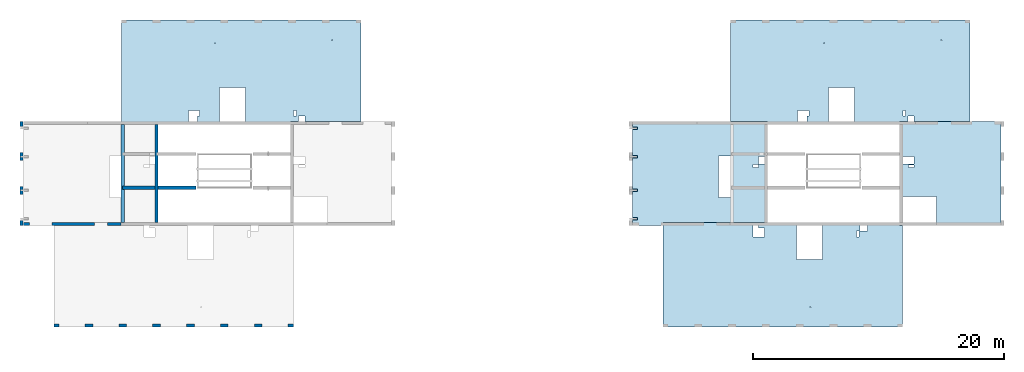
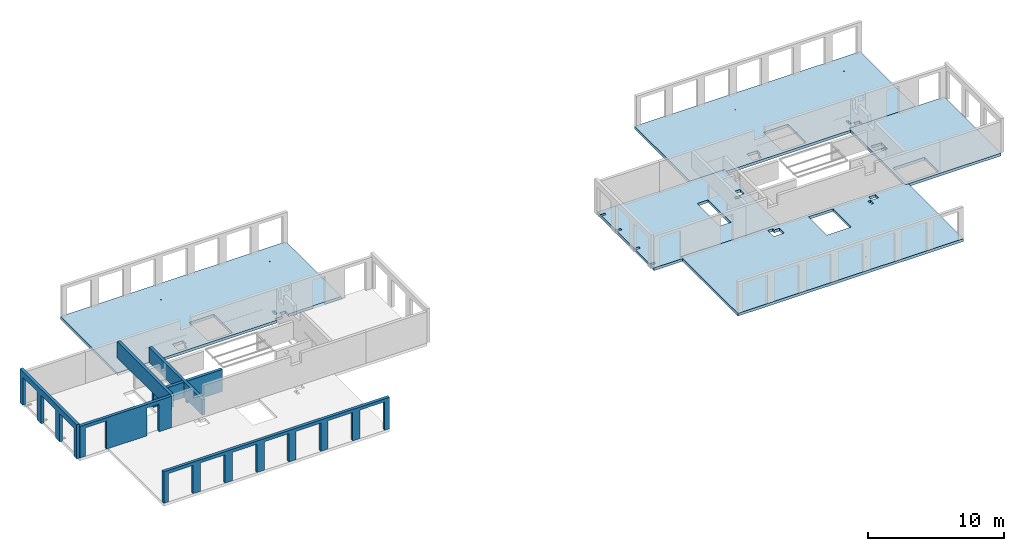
# One storey, part 3 of 6: 7 walls, 5 slabs, 50 openings.
"""IFC2X3 building model written with IfcOpenShell, lengths in millimetres."""

from ifc_helpers import new_model, entity, si_unit, converted_unit, derived_unit, direction, frame, frame_2d, origin, origin_2d_with_axis, place, context, subcontext, project, spatial, polyline, rectangle, circle, outline, extrude, clip, bounded_halfspace, material, layer, layer_set, layer_usage, type_object, element, save


model = new_model("IFC2X3")

# Units and contexts
model_context = context("Model", 3, precision=0.01, world=origin(), true_north=direction((6.12303176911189e-17, 1.0)))
body_context = subcontext(model_context, "Body", "Model", "MODEL_VIEW")
ifc_project = project(units=[si_unit("LENGTHUNIT", "METRE", prefix="MILLI"), si_unit("AREAUNIT", "SQUARE_METRE"), si_unit("VOLUMEUNIT", "CUBIC_METRE"), converted_unit("PLANEANGLEUNIT", "DEGREE", entity("IfcRatioMeasure", 0.0174532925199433), si_unit("PLANEANGLEUNIT", "RADIAN"), dimensions=[0, 0, 0, 0, 0, 0, 0]), si_unit("MASSUNIT", "GRAM", prefix="KILO"), derived_unit("MASSDENSITYUNIT", [(si_unit("MASSUNIT", "GRAM", prefix="KILO"), 1), (si_unit("LENGTHUNIT", "METRE"), -3)]), si_unit("TIMEUNIT", "SECOND"), si_unit("FREQUENCYUNIT", "HERTZ"), si_unit("THERMODYNAMICTEMPERATUREUNIT", "DEGREE_CELSIUS"), derived_unit("THERMALTRANSMITTANCEUNIT", [(si_unit("MASSUNIT", "GRAM", prefix="KILO"), 1), (si_unit("THERMODYNAMICTEMPERATUREUNIT", "KELVIN"), -1), (si_unit("TIMEUNIT", "SECOND"), -3)]), derived_unit("VOLUMETRICFLOWRATEUNIT", [(si_unit("LENGTHUNIT", "METRE"), 3), (si_unit("TIMEUNIT", "SECOND"), -1)]), si_unit("ELECTRICCURRENTUNIT", "AMPERE"), si_unit("ELECTRICVOLTAGEUNIT", "VOLT"), si_unit("POWERUNIT", "WATT"), si_unit("FORCEUNIT", "NEWTON", prefix="KILO"), si_unit("ILLUMINANCEUNIT", "LUX"), si_unit("LUMINOUSFLUXUNIT", "LUMEN"), si_unit("LUMINOUSINTENSITYUNIT", "CANDELA"), derived_unit("USERDEFINED", [(si_unit("MASSUNIT", "GRAM", prefix="KILO"), -1), (si_unit("LENGTHUNIT", "METRE"), -2), (si_unit("TIMEUNIT", "SECOND"), 3), (si_unit("LUMINOUSFLUXUNIT", "LUMEN"), 1)]), derived_unit("LINEARVELOCITYUNIT", [(si_unit("LENGTHUNIT", "METRE"), 1), (si_unit("TIMEUNIT", "SECOND"), -1)]), si_unit("PRESSUREUNIT", "PASCAL"), derived_unit("USERDEFINED", [(si_unit("LENGTHUNIT", "METRE"), -2), (si_unit("MASSUNIT", "GRAM", prefix="KILO"), 1), (si_unit("TIMEUNIT", "SECOND"), -2)])], contexts=[model_context])

# Site, building, storey
site_placement = place(None, origin())
site = spatial("IfcSite", under=ifc_project, at=site_placement, Name="Default", CompositionType="ELEMENT")
building_placement = place(site_placement, origin())
building = spatial("IfcBuilding", under=site, at=building_placement, Name="niet gebruiken", CompositionType="ELEMENT")
storey_placement = place(building_placement, frame((0.0, 0.0, 66160.0)))
storey = spatial("IfcBuildingStorey", under=building, at=storey_placement, Name="22 tweeëntwintigste verdieping", CompositionType="ELEMENT", Elevation=66160.0)

# Slab, openings
ifc_material_1 = material(Name="NLRS_f2_beton ihwg")
ifc_layer_1 = layer(ifc_material_1, 250.0)
ifc_layer_set_1 = layer_set([ifc_layer_1], Name="Floor:NLRS_23.21_FL_beton ihwg d=250_gen")
ifc_layer_usage_1 = layer_usage(ifc_layer_set_1, "AXIS3", "POSITIVE", 0.0)
slab_1_placement = place(storey_placement, frame((83600.0, 44906.0, -340.0)))
slab_1 = element("IfcSlab", 1, at=slab_1_placement, inside=storey, material=ifc_layer_usage_1, Name="Floor:NLRS_23.21_FL_beton ihwg d=250_gen", ObjectType="Floor:NLRS_23.21_FL_beton ihwg d=250_gen", PredefinedType="FLOOR", context=body_context, shape_type="SweptSolid", body=[
    extrude(outline(polyline([(-9550.0, 4175.0), (-9550.0, -3925.0), (-3925.0, -3925.0), (-3925.0, -4175.0), (9550.0, -4175.0), (9550.0, 4175.0), (-9550.0, 4175.0)])), frame((9550.0, 4175.0, 250.0), z_axis=(0.0, 0.0, -1.0), x_axis=(-1.0, 0.0, 0.0)), (0.0, 0.0, 1.0), 250.000000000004),
])
opening_1_placement = place(storey_placement, frame((83600.0, 44906.0, -340.0)))
element("IfcOpeningElement", 2, at=opening_1_placement, cuts=slab_1, ObjectType="Opening", context=body_context, shape_type="SweptSolid", body=[
    extrude(circle(Radius=37.5, at=frame_2d((-7250.0, 2575.0), x_axis=(1.0, 0.0))), frame((9550.0, 4175.0, 250.0), z_axis=(0.0, 0.0, -1.0), x_axis=(-1.0, 0.0, 0.0)), (0.0, 0.0, 1.0), 250.000000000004),
])
opening_2_placement = place(storey_placement, frame((83600.0, 44906.0, -340.0)))
element("IfcOpeningElement", 3, at=opening_2_placement, cuts=slab_1, ObjectType="Opening", context=body_context, shape_type="SweptSolid", body=[
    extrude(circle(Radius=37.5, at=frame_2d((2100.0, 2325.0), x_axis=(1.0, 0.0))), frame((9550.0, 4175.0, 250.0), z_axis=(0.0, 0.0, -1.0), x_axis=(-1.0, 0.0, 0.0)), (0.0, 0.0, 1.0), 250.000000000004),
])
opening_3_placement = place(slab_1_placement, origin())
element("IfcOpeningElement", 4, at=opening_3_placement, cuts=slab_1, ObjectType="Opening", context=body_context, shape_type="SweptSolid", body=[
    extrude(rectangle(XDim=450.000000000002, YDim=500.000000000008, at=origin_2d_with_axis()), frame((14375.0, 475.0, 0.0), z_axis=(0.0, 0.0, 1.0), x_axis=(0.0, 1.0, 0.0)), (0.0, 0.0, 1.0), 250.000000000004),
])
opening_4_placement = place(slab_1_placement, origin())
element("IfcOpeningElement", 5, at=opening_4_placement, cuts=slab_1, ObjectType="Opening", context=body_context, shape_type="SweptSolid", body=[
    extrude(rectangle(XDim=900.000000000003, YDim=730.000000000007, at=origin_2d_with_axis()), frame((5700.0, 700.0, 0.0), z_axis=(0.0, 0.0, 1.0), x_axis=(0.0, 1.0, 0.0)), (0.0, 0.0, 1.0), 250.000000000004),
])
opening_5_placement = place(slab_1_placement, origin())
element("IfcOpeningElement", 6, at=opening_5_placement, cuts=slab_1, ObjectType="Opening", context=body_context, shape_type="SweptSolid", body=[
    extrude(rectangle(XDim=169.999999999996, YDim=450.000000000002, at=origin_2d_with_axis()), frame((6150.0, 925.0, 0.0), z_axis=(0.0, 0.0, 1.0), x_axis=(-1.0, 0.0, 0.0)), (0.0, 0.0, 1.0), 250.000000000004),
])
opening_6_placement = place(slab_1_placement, origin())
element("IfcOpeningElement", 7, at=opening_6_placement, cuts=slab_1, ObjectType="Opening", context=body_context, shape_type="SweptSolid", body=[
    extrude(rectangle(XDim=900.000000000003, YDim=600.000000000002, at=origin_2d_with_axis()), frame((14175.0, -2820.0, 0.0), z_axis=(0.0, 0.0, 1.0), x_axis=(-1.0, 0.0, 0.0)), (0.0, 0.0, 1.0), 250.000000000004),
])
opening_7_placement = place(slab_1_placement, origin())
element("IfcOpeningElement", 8, at=opening_7_placement, cuts=slab_1, ObjectType="Opening", context=body_context, shape_type="SweptSolid", body=[
    extrude(rectangle(XDim=220.000000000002, YDim=450.000000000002, at=origin_2d_with_axis()), frame((13835.0, 925.0, 0.0), z_axis=(0.0, 0.0, 1.0), x_axis=(-1.0, 0.0, 0.0)), (0.0, 0.0, 1.0), 250.000000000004),
])
opening_8_placement = place(slab_1_placement, frame((8835.0, 1600.0, 250.0)))
element("IfcOpeningElement", 9, at=opening_8_placement, cuts=slab_1, Name="Floor:NLRS_23.21_FL_beton ihwg d=250_gen:2", ObjectType="Opening", context=body_context, shape_type="SweptSolid", body=[
    extrude(rectangle(XDim=2700.0, YDim=2069.99999999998, at=origin_2d_with_axis()), frame((0.0, 0.0, 0.0), z_axis=(0.0, 0.0, -1.0), x_axis=(0.0, -1.0, 0.0)), (0.0, 0.0, 1.0), 250.000000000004),
])

ifc_layer_usage_2 = layer_usage(ifc_layer_set_1, "AXIS3", "POSITIVE", 0.0)
slab_2_placement = place(storey_placement, frame((78200.0, 28756.0, -340.0)))
slab_2 = element("IfcSlab", 10, at=slab_2_placement, inside=storey, material=ifc_layer_usage_2, Name="Floor:NLRS_23.21_FL_beton ihwg d=250_gen", ObjectType="Floor:NLRS_23.21_FL_beton ihwg d=250_gen", PredefinedType="FLOOR", context=body_context, shape_type="SweptSolid", body=[
    extrude(rectangle(XDim=8350.00000000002, YDim=19099.9999999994, at=frame_2d((0.0, 0.0), x_axis=(0.0, 1.0))), frame((9550.0, 4175.0, 250.0), z_axis=(0.0, 0.0, -1.0), x_axis=(-1.0, 0.0, 0.0)), (0.0, 0.0, 1.0), 250.000000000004),
])
opening_9_placement = place(storey_placement, frame((78200.0, 28756.0, -340.0)))
element("IfcOpeningElement", 11, at=opening_9_placement, cuts=slab_2, ObjectType="Opening", context=body_context, shape_type="SweptSolid", body=[
    extrude(circle(Radius=37.5, at=frame_2d((-2200.0, -2575.0), x_axis=(1.0, 0.0))), frame((9550.0, 4175.0, 250.0), z_axis=(0.0, 0.0, -1.0), x_axis=(-1.0, 0.0, 0.0)), (0.0, 0.0, 1.0), 250.000000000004),
])
opening_10_placement = place(slab_2_placement, origin())
element("IfcOpeningElement", 12, at=opening_10_placement, cuts=slab_2, ObjectType="Opening", context=body_context, shape_type="SweptSolid", body=[
    extrude(rectangle(XDim=900.000000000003, YDim=700.000000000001, at=origin_2d_with_axis()), frame((7625.0, 7550.0, 0.0), z_axis=(0.0, 0.0, 1.0), x_axis=(-1.0, 0.0, 0.0)), (0.0, 0.0, 1.0), 250.000000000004),
])
opening_11_placement = place(slab_2_placement, origin())
element("IfcOpeningElement", 13, at=opening_11_placement, cuts=slab_2, ObjectType="Opening", context=body_context, shape_type="SweptSolid", body=[
    extrude(rectangle(XDim=200.000000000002, YDim=450.000000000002, at=origin_2d_with_axis()), frame((7400.0, 8000.0, 0.0), z_axis=(0.0, 0.0, 1.0), x_axis=(0.0, -1.0, 0.0)), (0.0, 0.0, 1.0), 250.000000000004),
])
opening_12_placement = place(slab_2_placement, origin())
element("IfcOpeningElement", 14, at=opening_12_placement, cuts=slab_2, ObjectType="Opening", context=body_context, shape_type="SweptSolid", body=[
    extrude(rectangle(XDim=400.000000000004, YDim=199.999999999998, at=origin_2d_with_axis()), frame((-2230.0, 15870.0, 220.0)), (0.0, 0.0, 1.0), 30.0000000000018),
])
opening_13_placement = place(slab_2_placement, origin())
element("IfcOpeningElement", 15, at=opening_13_placement, cuts=slab_2, ObjectType="Opening", context=body_context, shape_type="SweptSolid", body=[
    extrude(rectangle(XDim=199.999999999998, YDim=400.000000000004, at=origin_2d_with_axis()), frame((-2230.0, 13600.0, 220.0), z_axis=(0.0, 0.0, 1.0), x_axis=(0.0, -1.0, 0.0)), (0.0, 0.0, 1.0), 30.0000000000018),
])
opening_14_placement = place(slab_2_placement, origin())
element("IfcOpeningElement", 16, at=opening_14_placement, cuts=slab_2, ObjectType="Opening", context=body_context, shape_type="SweptSolid", body=[
    extrude(rectangle(XDim=199.999999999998, YDim=400.000000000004, at=origin_2d_with_axis()), frame((-2230.0, 10900.0, 220.0), z_axis=(0.0, 0.0, 1.0), x_axis=(0.0, -1.0, 0.0)), (0.0, 0.0, 1.0), 30.0000000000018),
])
opening_15_placement = place(slab_2_placement, origin())
element("IfcOpeningElement", 17, at=opening_15_placement, cuts=slab_2, ObjectType="Opening", context=body_context, shape_type="SweptSolid", body=[
    extrude(rectangle(XDim=200.000000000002, YDim=400.000000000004, at=origin_2d_with_axis()), frame((-2230.0, 8630.0, 220.0), z_axis=(0.0, 0.0, 1.0), x_axis=(0.0, -1.0, 0.0)), (0.0, 0.0, 1.0), 30.0000000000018),
])
opening_16_placement = place(slab_2_placement, origin())
element("IfcOpeningElement", 18, at=opening_16_placement, cuts=slab_2, ObjectType="Opening", context=body_context, shape_type="SweptSolid", body=[
    extrude(rectangle(XDim=450.000000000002, YDim=600.000000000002, at=origin_2d_with_axis()), frame((16030.0, 7875.0, 0.0), z_axis=(0.0, 0.0, 1.0), x_axis=(0.0, 1.0, 0.0)), (0.0, 0.0, 1.0), 250.000000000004),
])
opening_17_placement = place(slab_2_placement, origin())
element("IfcOpeningElement", 19, at=opening_17_placement, cuts=slab_2, ObjectType="Opening", context=body_context, shape_type="SweptSolid", body=[
    extrude(rectangle(XDim=220.000000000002, YDim=450.000000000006, at=origin_2d_with_axis()), frame((15540.0, 7425.0, 0.0)), (0.0, 0.0, 1.0), 250.000000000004),
])
opening_18_placement = place(slab_2_placement, frame((11690.0, 6750.0, 250.0)))
element("IfcOpeningElement", 20, at=opening_18_placement, cuts=slab_2, Name="Floor:NLRS_23.21_FL_beton ihwg d=250_gen:2", ObjectType="Opening", context=body_context, shape_type="SweptSolid", body=[
    extrude(rectangle(XDim=2070.00000000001, YDim=2700.0, at=origin_2d_with_axis()), frame((0.0, 0.0, 0.0), z_axis=(0.0, 0.0, -1.0), x_axis=(-1.0, 0.0, 0.0)), (0.0, 0.0, 1.0), 250.000000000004),
])

ifc_layer_usage_3 = layer_usage(ifc_layer_set_1, "AXIS3", "POSITIVE", 0.0)
slab_3_placement = place(storey_placement, frame((35000.0, 44906.0, -340.0)))
slab_3 = element("IfcSlab", 21, at=slab_3_placement, inside=storey, material=ifc_layer_usage_3, Name="Floor:NLRS_23.21_FL_beton ihwg d=250_gen", ObjectType="Floor:NLRS_23.21_FL_beton ihwg d=250_gen", PredefinedType="FLOOR", context=body_context, shape_type="SweptSolid", body=[
    extrude(outline(polyline([(-9550.0, 4175.0), (-9550.0, -3925.0), (-3925.0, -3925.0), (-3925.0, -4175.0), (9550.0, -4175.0), (9550.0, 4175.0), (-9550.0, 4175.0)])), frame((9550.0, 4175.0, 250.0), z_axis=(0.0, 0.0, -1.0), x_axis=(-1.0, 0.0, 0.0)), (0.0, 0.0, 1.0), 250.000000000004),
])
opening_19_placement = place(storey_placement, frame((35000.0, 44906.0, -340.0)))
element("IfcOpeningElement", 22, at=opening_19_placement, cuts=slab_3, ObjectType="Opening", context=body_context, shape_type="SweptSolid", body=[
    extrude(circle(Radius=37.5, at=frame_2d((-7250.0, 2575.0), x_axis=(1.0, 0.0))), frame((9550.0, 4175.0, 250.0), z_axis=(0.0, 0.0, -1.0), x_axis=(-1.0, 0.0, 0.0)), (0.0, 0.0, 1.0), 250.000000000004),
])
opening_20_placement = place(storey_placement, frame((35000.0, 44906.0, -340.0)))
element("IfcOpeningElement", 23, at=opening_20_placement, cuts=slab_3, ObjectType="Opening", context=body_context, shape_type="SweptSolid", body=[
    extrude(circle(Radius=37.5, at=frame_2d((2100.0, 2325.0), x_axis=(1.0, 0.0))), frame((9550.0, 4175.0, 250.0), z_axis=(0.0, 0.0, -1.0), x_axis=(-1.0, 0.0, 0.0)), (0.0, 0.0, 1.0), 250.000000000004),
])
opening_21_placement = place(slab_3_placement, origin())
element("IfcOpeningElement", 24, at=opening_21_placement, cuts=slab_3, ObjectType="Opening", context=body_context, shape_type="SweptSolid", body=[
    extrude(rectangle(XDim=450.000000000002, YDim=499.999999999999, at=origin_2d_with_axis()), frame((14375.0, 475.0, 0.0), z_axis=(0.0, 0.0, 1.0), x_axis=(0.0, 1.0, 0.0)), (0.0, 0.0, 1.0), 250.000000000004),
])
opening_22_placement = place(slab_3_placement, origin())
element("IfcOpeningElement", 25, at=opening_22_placement, cuts=slab_3, ObjectType="Opening", context=body_context, shape_type="SweptSolid", body=[
    extrude(rectangle(XDim=900.000000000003, YDim=729.999999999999, at=origin_2d_with_axis()), frame((5700.0, 700.0, 0.0), z_axis=(0.0, 0.0, 1.0), x_axis=(0.0, 1.0, 0.0)), (0.0, 0.0, 1.0), 250.000000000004),
])
opening_23_placement = place(slab_3_placement, origin())
element("IfcOpeningElement", 26, at=opening_23_placement, cuts=slab_3, ObjectType="Opening", context=body_context, shape_type="SweptSolid", body=[
    extrude(rectangle(XDim=170.000000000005, YDim=450.000000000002, at=origin_2d_with_axis()), frame((6150.0, 925.0, 0.0), z_axis=(0.0, 0.0, 1.0), x_axis=(-1.0, 0.0, 0.0)), (0.0, 0.0, 1.0), 250.000000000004),
])
opening_24_placement = place(slab_3_placement, origin())
element("IfcOpeningElement", 27, at=opening_24_placement, cuts=slab_3, ObjectType="Opening", context=body_context, shape_type="SweptSolid", body=[
    extrude(rectangle(XDim=900.000000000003, YDim=600.000000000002, at=origin_2d_with_axis()), frame((14175.0, -2820.0, 0.0), z_axis=(0.0, 0.0, 1.0), x_axis=(-1.0, 0.0, 0.0)), (0.0, 0.0, 1.0), 250.000000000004),
])
opening_25_placement = place(slab_3_placement, origin())
element("IfcOpeningElement", 28, at=opening_25_placement, cuts=slab_3, ObjectType="Opening", context=body_context, shape_type="SweptSolid", body=[
    extrude(rectangle(XDim=220.000000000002, YDim=450.000000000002, at=origin_2d_with_axis()), frame((13835.0, 925.0, 0.0), z_axis=(0.0, 0.0, 1.0), x_axis=(-1.0, 0.0, 0.0)), (0.0, 0.0, 1.0), 250.000000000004),
])
opening_26_placement = place(slab_3_placement, frame((8835.0, 1600.0, 250.0)))
element("IfcOpeningElement", 29, at=opening_26_placement, cuts=slab_3, Name="Floor:NLRS_23.21_FL_beton ihwg d=250_gen:2", ObjectType="Opening", context=body_context, shape_type="SweptSolid", body=[
    extrude(rectangle(XDim=2700.0, YDim=2069.99999999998, at=origin_2d_with_axis()), frame((0.0, 0.0, 0.0), z_axis=(0.0, 0.0, -1.0), x_axis=(0.0, -1.0, 0.0)), (0.0, 0.0, 1.0), 250.000000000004),
])

ifc_layer_usage_4 = layer_usage(ifc_layer_set_1, "AXIS3", "POSITIVE", 0.0)
slab_4_placement = place(storey_placement, frame((75770.0, 36856.0, -340.0)))
slab_4 = element("IfcSlab", 30, at=slab_4_placement, inside=storey, material=ifc_layer_usage_4, Name="Floor:NLRS_23.21_FL_beton ihwg d=250_gen", ObjectType="Floor:NLRS_23.21_FL_beton ihwg d=250_gen", PredefinedType="FLOOR", context=body_context, shape_type="SweptSolid", body=[
    extrude(outline(polyline([(5377.50000000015, -4150.0), (5377.50000000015, 4150.0), (-5377.50000000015, 4150.0), (-5377.50000000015, -3900.0), (2947.50000000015, -3900.0), (2947.50000000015, -4150.0), (5377.50000000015, -4150.0)])), frame((5377.50000000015, 4150.0, 250.0), z_axis=(0.0, 0.0, -1.0), x_axis=(-1.0, 0.0, 0.0)), (0.0, 0.0, 1.0), 250.000000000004),
])
opening_27_placement = place(slab_4_placement, origin())
element("IfcOpeningElement", 31, at=opening_27_placement, cuts=slab_4, ObjectType="Opening", context=body_context, shape_type="SweptSolid", body=[
    extrude(rectangle(XDim=200.000000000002, YDim=400.000000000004, at=origin_2d_with_axis()), frame((200.0, 530.0, 220.0), z_axis=(0.0, 0.0, 1.0), x_axis=(0.0, -1.0, 0.0)), (0.0, 0.0, 1.0), 30.0000000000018),
])
opening_28_placement = place(slab_4_placement, origin())
element("IfcOpeningElement", 32, at=opening_28_placement, cuts=slab_4, ObjectType="Opening", context=body_context, shape_type="SweptSolid", body=[
    extrude(rectangle(XDim=199.999999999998, YDim=400.000000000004, at=origin_2d_with_axis()), frame((200.0, 2800.0, 220.0), z_axis=(0.0, 0.0, 1.0), x_axis=(0.0, -1.0, 0.0)), (0.0, 0.0, 1.0), 30.0000000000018),
])
opening_29_placement = place(slab_4_placement, origin())
element("IfcOpeningElement", 33, at=opening_29_placement, cuts=slab_4, ObjectType="Opening", context=body_context, shape_type="SweptSolid", body=[
    extrude(rectangle(XDim=199.999999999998, YDim=400.000000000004, at=origin_2d_with_axis()), frame((200.0, 5500.0, 220.0), z_axis=(0.0, 0.0, 1.0), x_axis=(0.0, -1.0, 0.0)), (0.0, 0.0, 1.0), 30.0000000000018),
])
opening_30_placement = place(slab_4_placement, origin())
element("IfcOpeningElement", 34, at=opening_30_placement, cuts=slab_4, ObjectType="Opening", context=body_context, shape_type="SweptSolid", body=[
    extrude(rectangle(XDim=400.000000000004, YDim=199.999999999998, at=origin_2d_with_axis()), frame((200.0, 7770.0, 220.0)), (0.0, 0.0, 1.0), 30.0000000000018),
])
opening_31_placement = place(slab_4_placement, origin())
element("IfcOpeningElement", 35, at=opening_31_placement, cuts=slab_4, ObjectType="Opening", context=body_context, shape_type="SweptSolid", body=[
    extrude(rectangle(XDim=450.000000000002, YDim=600.000000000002, at=origin_2d_with_axis()), frame((10280.0002779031, 5230.00001984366, 0.0), z_axis=(0.0, 0.0, 1.0), x_axis=(-1.0, 0.0, 0.0)), (0.0, 0.0, 1.0), 250.000000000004),
])
opening_32_placement = place(slab_4_placement, origin())
element("IfcOpeningElement", 36, at=opening_32_placement, cuts=slab_4, ObjectType="Opening", context=body_context, shape_type="SweptSolid", body=[
    extrude(rectangle(XDim=230.0, YDim=450.000000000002, at=origin_2d_with_axis()), frame((9830.00008659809, 4745.00022702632, 0.0), z_axis=(0.0, 0.0, 1.0), x_axis=(0.0, -1.0, 0.0)), (0.0, 0.0, 1.0), 250.000000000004),
])
opening_33_placement = place(slab_4_placement, frame((7337.24999999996, 3900.0, 250.0)))
element("IfcOpeningElement", 37, at=opening_33_placement, cuts=slab_4, Name="Floor:NLRS_23.21_FL_beton ihwg d=250_gen:2", ObjectType="Opening", context=body_context, shape_type="SweptSolid", body=[
    extrude(rectangle(XDim=929.500000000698, YDim=3320.00000000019, at=origin_2d_with_axis()), frame((0.0, 0.0, 0.0), z_axis=(0.0, 0.0, -1.0), x_axis=(1.0, 0.0, 0.0)), (0.0, 0.0, 1.0), 250.000000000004),
])

ifc_layer_usage_5 = layer_usage(ifc_layer_set_1, "AXIS3", "POSITIVE", 0.0)
slab_5_placement = place(storey_placement, frame((97075.0, 36856.0, -340.0)))
slab_5 = element("IfcSlab", 38, at=slab_5_placement, inside=storey, material=ifc_layer_usage_5, Name="Floor:NLRS_23.21_FL_beton ihwg d=250_gen", ObjectType="Floor:NLRS_23.21_FL_beton ihwg d=250_gen", PredefinedType="FLOOR", context=body_context, shape_type="SweptSolid", body=[
    extrude(rectangle(XDim=8299.99999999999, YDim=8074.99999999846, at=frame_2d((0.0, 0.0), x_axis=(0.0, -1.0))), frame((4037.49999999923, 4150.0, 250.0), z_axis=(0.0, 0.0, -1.0), x_axis=(-1.0, 0.0, 0.0)), (0.0, 0.0, 1.0), 250.000000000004),
])
opening_34_placement = place(slab_5_placement, origin())
element("IfcOpeningElement", 39, at=opening_34_placement, cuts=slab_5, ObjectType="Opening", context=body_context, shape_type="SweptSolid", body=[
    extrude(rectangle(XDim=900.000000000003, YDim=600.000000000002, at=origin_2d_with_axis()), frame((700.0, 5230.0, 0.0), z_axis=(0.0, 0.0, 1.0), x_axis=(-1.0, 0.0, 0.0)), (0.0, 0.0, 1.0), 250.000000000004),
])
opening_35_placement = place(slab_5_placement, origin())
element("IfcOpeningElement", 40, at=opening_35_placement, cuts=slab_5, ObjectType="Opening", context=body_context, shape_type="SweptSolid", body=[
    extrude(rectangle(XDim=220.000000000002, YDim=450.000000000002, at=origin_2d_with_axis()), frame((925.0, 4740.0, 0.0), z_axis=(0.0, 0.0, 1.0), x_axis=(0.0, -1.0, 0.0)), (0.0, 0.0, 1.0), 250.000000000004),
])
opening_36_placement = place(slab_5_placement, frame((1600.0, 1285.0, 250.0)))
element("IfcOpeningElement", 41, at=opening_36_placement, cuts=slab_5, Name="Floor:NLRS_23.21_FL_beton ihwg d=250_gen:2", ObjectType="Opening", context=body_context, shape_type="SweptSolid", body=[
    extrude(rectangle(XDim=2700.00000000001, YDim=2070.0, at=origin_2d_with_axis()), frame((0.0, 0.0, 0.0), z_axis=(0.0, 0.0, -1.0), x_axis=(1.0, 0.0, 0.0)), (0.0, 0.0, 1.0), 250.000000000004),
])

# Wall
ifc_layer_2 = layer(ifc_material_1, 250.0)
ifc_layer_set_2 = layer_set([ifc_layer_2], Name="Basic Wall:NLRS_22.21_WA_beton ihwg d=250_gen")
ifc_layer_usage_6 = layer_usage(ifc_layer_set_2, "AXIS2", "NEGATIVE", 125.0)
wall_type_1 = type_object("IfcWallType", Name="Basic Wall:NLRS_22.21_WA_beton ihwg d=250_gen", PredefinedType="STANDARD", material=ifc_layer_set_2)
wall_1_placement = place(storey_placement, frame((37800.0, 44906.0, -90.0), z_axis=(0.0, 0.0, 1.0), x_axis=(0.0, -1.0, 0.0)))
element("IfcWallStandardCase", 42, at=wall_1_placement, inside=storey, type_object=wall_type_1, material=ifc_layer_usage_6, Name="Basic Wall:NLRS_22.21_WA_beton ihwg d=250_gen", ObjectType="Basic Wall:NLRS_22.21_WA_beton ihwg d=250_gen", context=body_context, shape_type="SweptSolid", body=[
    extrude(rectangle(XDim=7799.99999999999, YDim=250.000000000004, at=frame_2d((3900.0, 0.0), x_axis=(-1.0, 0.0))), origin(), (0.0, 0.0, 1.0), 1370.0),
])

# Wall, openings
ifc_layer_usage_7 = layer_usage(ifc_layer_set_2, "AXIS2", "NEGATIVE", 125.0)
wall_2_placement = place(storey_placement, frame((27170.0, 36981.0, -90.0)))
wall_2 = element("IfcWallStandardCase", 43, at=wall_2_placement, inside=storey, type_object=wall_type_1, material=ifc_layer_usage_7, Name="Basic Wall:NLRS_22.21_WA_beton ihwg d=250_gen", ObjectType="Basic Wall:NLRS_22.21_WA_beton ihwg d=250_gen", context=body_context, shape_type="SweptSolid", body=[
    extrude(rectangle(XDim=7780.0, YDim=250.000000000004, at=frame_2d((3890.0, 0.0), x_axis=(-1.0, 0.0))), origin(), (0.0, 0.0, 1.0), 2820.0),
])
opening_37_placement = place(wall_2_placement, origin())
element("IfcOpeningElement", 44, at=opening_37_placement, cuts=wall_2, Name="Basic Wall:NLRS_22.21_WA_beton ihwg d=250_gen", ObjectType="Opening", context=body_context, shape_type="SweptSolid", body=[
    extrude(rectangle(XDim=2540.0, YDim=1765.0, at=frame_2d((-4.32009983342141e-12, 0.0), x_axis=(1.0, 0.0))), frame((1382.5, -1649.0, 1270.0), z_axis=(0.0, 1.0, 0.0), x_axis=(0.0, 0.0, 1.0)), (0.0, 0.0, 1.0), 3048.0),
])
opening_38_placement = place(wall_2_placement, origin())
element("IfcOpeningElement", 45, at=opening_38_placement, cuts=wall_2, Name="Basic Wall:NLRS_22.21_WA_beton ihwg d=250_gen", ObjectType="Opening", context=body_context, shape_type="SweptSolid", body=[
    extrude(rectangle(XDim=2492.00000000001, YDim=1022.0, at=frame_2d((8.75388650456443e-12, 0.0), x_axis=(1.0, 0.0))), frame((6190.0, -1649.0, 1246.0), z_axis=(0.0, 1.0, 0.0), x_axis=(0.0, 0.0, 1.0)), (0.0, 0.0, 1.0), 3048.0),
])
opening_39_placement = place(wall_2_placement, origin())
element("IfcOpeningElement", 46, at=opening_39_placement, cuts=wall_2, Name="Basic Wall:NLRS_22.21_WA_beton ihwg d=250_gen", ObjectType="Opening", context=body_context, shape_type="SweptSolid", body=[
    extrude(rectangle(XDim=849.999999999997, YDim=900.000000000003, at=frame_2d((-8.66862137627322e-12, 0.0), x_axis=(1.0, 0.0))), frame((18310.0, -125.0, 2395.0), z_axis=(0.0, 1.0, 0.0), x_axis=(0.0, 0.0, -1.0)), (0.0, 0.0, 1.0), 250.000000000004),
])
opening_40_placement = place(wall_2_placement, origin())
element("IfcOpeningElement", 47, at=opening_40_placement, cuts=wall_2, Name="Basic Wall:NLRS_22.21_WA_beton ihwg d=250_gen", ObjectType="Opening", context=body_context, shape_type="SweptSolid", body=[
    extrude(rectangle(XDim=849.999999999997, YDim=899.999999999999, at=frame_2d((-8.66862137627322e-12, -2.1600499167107e-12), x_axis=(1.0, 0.0))), frame((10055.0, -125.0, 2395.0), z_axis=(0.0, 1.0, 0.0), x_axis=(0.0, 0.0, -1.0)), (0.0, 0.0, 1.0), 250.000000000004),
])

# Walls
ifc_layer_usage_8 = layer_usage(ifc_layer_set_2, "AXIS2", "NEGATIVE", 125.0)
wall_3_placement = place(storey_placement, frame((35100.0, 44906.0, 1280.0), z_axis=(0.0, 0.0, 1.0), x_axis=(0.0, -1.0, 0.0)))
element("IfcWallStandardCase", 48, at=wall_3_placement, inside=storey, type_object=wall_type_1, material=ifc_layer_usage_8, Name="Basic Wall:NLRS_22.21_WA_beton ihwg d=250_gen", ObjectType="Basic Wall:NLRS_22.21_WA_beton ihwg d=250_gen", context=body_context, shape_type="Clipping", body=[
    clip(clip(extrude(rectangle(XDim=7799.99999999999, YDim=250.000000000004, at=frame_2d((3899.99999999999, 0.0), x_axis=(-1.0, 0.0))), origin(), (0.0, 0.0, 1.0), 1450.0), bounded_halfspace(frame((7800.0, 0.0, 250.0), z_axis=(0.0, 0.0, 1.0), x_axis=(0.0, 1.0, 0.0)), True, frame((7800.0, 0.0, 250.0), z_axis=(0.0, 0.0, 1.0), x_axis=(0.0, 1.0, 0.0)), polyline([(0.0, 0.0), (125.0, 0.0), (125.0, 7800.0), (0.0, 7800.0), (0.0, 0.0)]))), bounded_halfspace(frame((0.0, 0.0, 250.0), z_axis=(0.0, -1.0, 0.0), x_axis=(0.0, 0.0, 1.0)), True, frame((0.0, 0.0, 250.0), z_axis=(0.0, -1.0, 0.0), x_axis=(0.0, 0.0, 1.0)), polyline([(0.0, 0.0), (-250.0, 0.0), (-250.0, -7800.0), (0.0, -7800.0), (0.0, 0.0)]))),
])
ifc_layer_usage_9 = layer_usage(ifc_layer_set_2, "AXIS2", "NEGATIVE", 125.0)
wall_4_placement = place(storey_placement, frame((40925.0, 39871.0, -690.0), z_axis=(0.0, 0.0, 1.0), x_axis=(-1.0, 0.0, 0.0)))
element("IfcWallStandardCase", 49, at=wall_4_placement, inside=storey, type_object=wall_type_1, material=ifc_layer_usage_9, Name="Basic Wall:NLRS_22.21_WA_beton ihwg d=250_gen", ObjectType="Basic Wall:NLRS_22.21_WA_beton ihwg d=250_gen", context=body_context, shape_type="SweptSolid", body=[
    extrude(rectangle(XDim=2999.99999999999, YDim=249.999999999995, at=frame_2d((1500.0, 0.0), x_axis=(-1.0, 0.0))), origin(), (0.0, 0.0, 1.0), 1969.99999999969),
])
ifc_layer_usage_10 = layer_usage(ifc_layer_set_2, "AXIS2", "NEGATIVE", 125.0)
wall_5_placement = place(storey_placement, frame((37675.0, 39871.0, -90.0), z_axis=(0.0, 0.0, 1.0), x_axis=(-1.0, 0.0, 0.0)))
element("IfcWallStandardCase", 50, at=wall_5_placement, inside=storey, type_object=wall_type_1, material=ifc_layer_usage_10, Name="Basic Wall:NLRS_22.21_WA_beton ihwg d=250_gen", ObjectType="Basic Wall:NLRS_22.21_WA_beton ihwg d=250_gen", context=body_context, shape_type="SweptSolid", body=[
    extrude(rectangle(XDim=2599.99999999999, YDim=249.999999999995, at=frame_2d((1300.0, 0.0), x_axis=(-1.0, 0.0))), origin(), (0.0, 0.0, 1.0), 1370.0),
])

# Wall, openings
ifc_material_2 = material(Name="NLRS_f2_beton prefab")
ifc_layer_3 = layer(ifc_material_2, 250.0)
ifc_layer_set_3 = layer_set([ifc_layer_3], Name="Basic Wall:NLRS_21.21_WA_beton prefab d=250_gen")
ifc_layer_usage_11 = layer_usage(ifc_layer_set_3, "AXIS2", "NEGATIVE", 125.0)
wall_type_2 = type_object("IfcWallType", Name="Basic Wall:NLRS_21.21_WA_beton prefab d=250_gen", PredefinedType="STANDARD", material=ifc_layer_set_3)
wall_6_placement = place(storey_placement, frame((27025.0, 45156.0, -70.0), z_axis=(0.0, 0.0, 1.0), x_axis=(0.0, -1.0, 0.0)))
wall_6 = element("IfcWallStandardCase", 51, at=wall_6_placement, inside=storey, type_object=wall_type_2, material=ifc_layer_usage_11, Name="Basic Wall:NLRS_21.21_WA_beton prefab d=250_gen", ObjectType="Basic Wall:NLRS_21.21_WA_beton prefab d=250_gen", context=body_context, shape_type="SweptSolid", body=[
    extrude(rectangle(XDim=8299.99999999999, YDim=250.000000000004, at=frame_2d((4150.0, 0.0), x_axis=(-1.0, 0.0))), origin(), (0.0, 0.0, 1.0), 3050.0),
])
opening_41_placement = place(wall_6_placement, origin())
element("IfcOpeningElement", 52, at=opening_41_placement, cuts=wall_6, Name="Basic Wall:NLRS_21.21_WA_beton prefab d=250_gen", ObjectType="Opening", context=body_context, shape_type="SweptSolid", body=[
    extrude(rectangle(XDim=2520.0, YDim=2080.0, at=frame_2d((0.0, 0.0), x_axis=(0.0, 1.0))), frame((6850.0, -1399.0, 1260.0), z_axis=(0.0, 1.0, 0.0), x_axis=(-1.0, 0.0, 0.0)), (0.0, 0.0, 1.0), 3048.0),
])
opening_42_placement = place(wall_6_placement, origin())
element("IfcOpeningElement", 53, at=opening_42_placement, cuts=wall_6, Name="Basic Wall:NLRS_21.21_WA_beton prefab d=250_gen", ObjectType="Opening", context=body_context, shape_type="SweptSolid", body=[
    extrude(rectangle(XDim=2520.0, YDim=2080.0, at=frame_2d((0.0, 0.0), x_axis=(0.0, 1.0))), frame((4150.0, -1399.0, 1260.0), z_axis=(0.0, 1.0, 0.0), x_axis=(-1.0, 0.0, 0.0)), (0.0, 0.0, 1.0), 3048.0),
])
opening_43_placement = place(wall_6_placement, origin())
element("IfcOpeningElement", 54, at=opening_43_placement, cuts=wall_6, Name="Basic Wall:NLRS_21.21_WA_beton prefab d=250_gen", ObjectType="Opening", context=body_context, shape_type="SweptSolid", body=[
    extrude(rectangle(XDim=2520.0, YDim=2080.0, at=frame_2d((0.0, 0.0), x_axis=(0.0, 1.0))), frame((1450.0, -1399.0, 1260.0), z_axis=(0.0, 1.0, 0.0), x_axis=(-1.0, 0.0, 0.0)), (0.0, 0.0, 1.0), 3048.0),
])

ifc_layer_4 = layer(ifc_material_1, 250.0)
ifc_layer_set_4 = layer_set([ifc_layer_4], Name="Basic Wall:NLRS_21.21_WA_beton ihwg d=250_gen")
ifc_layer_usage_12 = layer_usage(ifc_layer_set_4, "AXIS2", "NEGATIVE", 125.0)
wall_type_3 = type_object("IfcWallType", Name="Basic Wall:NLRS_21.21_WA_beton ihwg d=250_gen", PredefinedType="STANDARD", material=ifc_layer_set_4)
wall_7_placement = place(storey_placement, frame((29600.0, 28881.0, -90.0)))
wall_7 = element("IfcWallStandardCase", 55, at=wall_7_placement, inside=storey, type_object=wall_type_3, material=ifc_layer_usage_12, Name="Basic Wall:NLRS_21.21_WA_beton ihwg d=250_gen", ObjectType="Basic Wall:NLRS_21.21_WA_beton ihwg d=250_gen", context=body_context, shape_type="SweptSolid", body=[
    extrude(rectangle(XDim=19099.9999999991, YDim=250.000000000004, at=frame_2d((9549.99999999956, 0.0), x_axis=(-1.0, 0.0))), origin(), (0.0, 0.0, 1.0), 2820.0),
])
opening_44_placement = place(wall_7_placement, origin())
element("IfcOpeningElement", 56, at=opening_44_placement, cuts=wall_7, Name="Basic Wall:NLRS_21.21_WA_beton ihwg d=250_gen", ObjectType="Opening", context=body_context, shape_type="SweptSolid", body=[
    extrude(rectangle(XDim=2540.0, YDim=2080.0, at=frame_2d((0.0, 4.32009983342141e-12), x_axis=(0.0, 1.0))), frame((17650.0, -1399.0, 1270.0), z_axis=(0.0, 1.0, 0.0), x_axis=(-1.0, 0.0, 0.0)), (0.0, 0.0, 1.0), 3048.0),
])
opening_45_placement = place(wall_7_placement, origin())
element("IfcOpeningElement", 57, at=opening_45_placement, cuts=wall_7, Name="Basic Wall:NLRS_21.21_WA_beton ihwg d=250_gen", ObjectType="Opening", context=body_context, shape_type="SweptSolid", body=[
    extrude(rectangle(XDim=2540.0, YDim=2080.0, at=frame_2d((0.0, 4.32009983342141e-12), x_axis=(0.0, 1.0))), frame((14950.0, -1399.0, 1270.0), z_axis=(0.0, 1.0, 0.0), x_axis=(-1.0, 0.0, 0.0)), (0.0, 0.0, 1.0), 3048.0),
])
opening_46_placement = place(wall_7_placement, origin())
element("IfcOpeningElement", 58, at=opening_46_placement, cuts=wall_7, Name="Basic Wall:NLRS_21.21_WA_beton ihwg d=250_gen", ObjectType="Opening", context=body_context, shape_type="SweptSolid", body=[
    extrude(rectangle(XDim=2540.0, YDim=2080.0, at=frame_2d((0.0, 4.32009983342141e-12), x_axis=(0.0, 1.0))), frame((12250.0, -1399.0, 1270.0), z_axis=(0.0, 1.0, 0.0), x_axis=(-1.0, 0.0, 0.0)), (0.0, 0.0, 1.0), 3048.0),
])
opening_47_placement = place(wall_7_placement, origin())
element("IfcOpeningElement", 59, at=opening_47_placement, cuts=wall_7, Name="Basic Wall:NLRS_21.21_WA_beton ihwg d=250_gen", ObjectType="Opening", context=body_context, shape_type="SweptSolid", body=[
    extrude(rectangle(XDim=2540.0, YDim=2080.0, at=frame_2d((-4.32009983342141e-12, 4.32009983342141e-12), x_axis=(0.0, 1.0))), frame((9550.0, -1399.0, 1270.0), z_axis=(0.0, 1.0, 0.0), x_axis=(-1.0, 0.0, 0.0)), (0.0, 0.0, 1.0), 3048.0),
])
opening_48_placement = place(wall_7_placement, origin())
element("IfcOpeningElement", 60, at=opening_48_placement, cuts=wall_7, Name="Basic Wall:NLRS_21.21_WA_beton ihwg d=250_gen", ObjectType="Opening", context=body_context, shape_type="SweptSolid", body=[
    extrude(rectangle(XDim=2540.0, YDim=2080.0, at=frame_2d((-2.1600499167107e-12, 4.32009983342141e-12), x_axis=(0.0, 1.0))), frame((6850.0, -1399.0, 1270.0), z_axis=(0.0, 1.0, 0.0), x_axis=(-1.0, 0.0, 0.0)), (0.0, 0.0, 1.0), 3048.0),
])
opening_49_placement = place(wall_7_placement, origin())
element("IfcOpeningElement", 61, at=opening_49_placement, cuts=wall_7, Name="Basic Wall:NLRS_21.21_WA_beton ihwg d=250_gen", ObjectType="Opening", context=body_context, shape_type="SweptSolid", body=[
    extrude(rectangle(XDim=2540.0, YDim=2080.0, at=frame_2d((2.1600499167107e-12, 4.32009983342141e-12), x_axis=(0.0, 1.0))), frame((4150.0, -1399.0, 1270.0), z_axis=(0.0, 1.0, 0.0), x_axis=(-1.0, 0.0, 0.0)), (0.0, 0.0, 1.0), 3048.0),
])
opening_50_placement = place(wall_7_placement, origin())
element("IfcOpeningElement", 62, at=opening_50_placement, cuts=wall_7, Name="Basic Wall:NLRS_21.21_WA_beton ihwg d=250_gen", ObjectType="Opening", context=body_context, shape_type="SweptSolid", body=[
    extrude(rectangle(XDim=2540.0, YDim=2080.0, at=frame_2d((-2.1600499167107e-12, 4.32009983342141e-12), x_axis=(0.0, 1.0))), frame((1450.0, -1399.0, 1270.0), z_axis=(0.0, 1.0, 0.0), x_axis=(-1.0, 0.0, 0.0)), (0.0, 0.0, 1.0), 3048.0),
])

save(model, "model.ifc")
